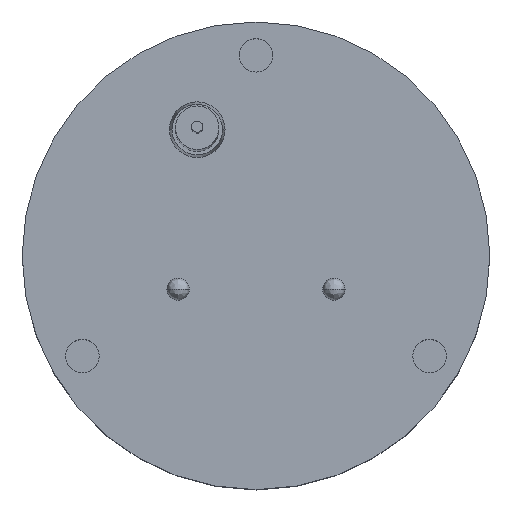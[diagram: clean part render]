
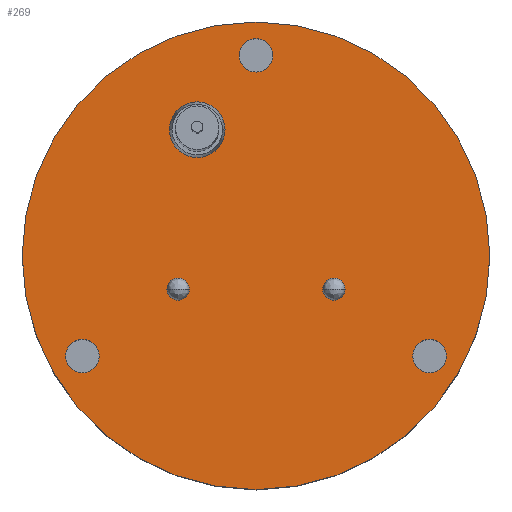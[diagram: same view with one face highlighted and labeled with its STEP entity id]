
A CAD part, top view. The second image highlights one B-rep face of the part: STEP entity #269.
In plain terms, the highlighted planar face has unit normal (0, 0, 1).
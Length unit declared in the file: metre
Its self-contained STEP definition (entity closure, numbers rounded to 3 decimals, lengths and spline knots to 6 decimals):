
#1 = CIRCLE ( 'NONE', #328, 0.0025 ) ;
#22 = CARTESIAN_POINT ( 'NONE',  ( 0.015588, -0.009, 0.0183 ) ) ;
#41 = VERTEX_POINT ( 'NONE', #1029 ) ;
#55 = CIRCLE ( 'NONE', #219, 0.001 ) ;
#64 = CIRCLE ( 'NONE', #436, 0.001 ) ;
#75 = DIRECTION ( 'NONE',  ( 0., 0., 1. ) ) ;
#86 = DIRECTION ( 'NONE',  ( 0., 0., -1. ) ) ;
#93 = EDGE_CURVE ( 'NONE', #882, #1026, #1, .T. ) ;
#94 = DIRECTION ( 'NONE',  ( 0., 0., -1. ) ) ;
#95 = CARTESIAN_POINT ( 'NONE',  ( 0.007, -0.003, 0.0183 ) ) ;
#102 = DIRECTION ( 'NONE',  ( 1., 0., 0. ) ) ;
#109 = EDGE_LOOP ( 'NONE', ( #671, #456 ) ) ;
#110 = CARTESIAN_POINT ( 'NONE',  ( 0., -0.021, 0.0183 ) ) ;
#113 = DIRECTION ( 'NONE',  ( 0., 0., -1. ) ) ;
#117 = VERTEX_POINT ( 'NONE', #589 ) ;
#118 = VERTEX_POINT ( 'NONE', #920 ) ;
#120 = CARTESIAN_POINT ( 'NONE',  ( 0.014088, -0.009, 0.0183 ) ) ;
#150 = DIRECTION ( 'NONE',  ( 1., 0., 0. ) ) ;
#161 = EDGE_CURVE ( 'NONE', #480, #182, #517, .T. ) ;
#166 = EDGE_LOOP ( 'NONE', ( #690, #312 ) ) ;
#167 = DIRECTION ( 'NONE',  ( 1., 0., 0. ) ) ;
#168 = DIRECTION ( 'NONE',  ( 0., 0., -1. ) ) ;
#173 = DIRECTION ( 'NONE',  ( 1., 0., 0. ) ) ;
#182 = VERTEX_POINT ( 'NONE', #678 ) ;
#184 = ORIENTED_EDGE ( 'NONE', *, *, #438, .T. ) ;
#189 = EDGE_CURVE ( 'NONE', #455, #1028, #352, .T. ) ;
#196 = AXIS2_PLACEMENT_3D ( 'NONE', #1002, #275, #255 ) ;
#203 = AXIS2_PLACEMENT_3D ( 'NONE', #95, #168, #757 ) ;
#204 = CARTESIAN_POINT ( 'NONE',  ( -0.015588, -0.009, 0.0183 ) ) ;
#211 = EDGE_LOOP ( 'NONE', ( #442, #184 ) ) ;
#219 = AXIS2_PLACEMENT_3D ( 'NONE', #423, #998, #274 ) ;
#221 = CIRCLE ( 'NONE', #244, 0.021 ) ;
#244 = AXIS2_PLACEMENT_3D ( 'NONE', #360, #283, #362 ) ;
#246 = CIRCLE ( 'NONE', #511, 0.0015 ) ;
#252 = EDGE_CURVE ( 'NONE', #1028, #455, #561, .T. ) ;
#254 = DIRECTION ( 'NONE',  ( 0., 0., -1. ) ) ;
#255 = DIRECTION ( 'NONE',  ( 1., 0., 0. ) ) ;
#269 = ADVANCED_FACE ( 'NONE', ( #1012, #909, #543, #284, #769, #758, #550 ), #726, .T. ) ;
#274 = DIRECTION ( 'NONE',  ( 1., 0., 0. ) ) ;
#275 = DIRECTION ( 'NONE',  ( 0., 0., -1. ) ) ;
#282 = EDGE_CURVE ( 'NONE', #288, #492, #377, .T. ) ;
#283 = DIRECTION ( 'NONE',  ( 0., 0., 1. ) ) ;
#284 = FACE_BOUND ( 'NONE', #988, .T. ) ;
#288 = VERTEX_POINT ( 'NONE', #498 ) ;
#311 = CARTESIAN_POINT ( 'NONE',  ( -0.005283, 0.011329, 0.0183 ) ) ;
#312 = ORIENTED_EDGE ( 'NONE', *, *, #477, .T. ) ;
#326 = VERTEX_POINT ( 'NONE', #398 ) ;
#328 = AXIS2_PLACEMENT_3D ( 'NONE', #419, #580, #350 ) ;
#341 = CARTESIAN_POINT ( 'NONE',  ( -0.015588, -0.009, 0.0183 ) ) ;
#350 = DIRECTION ( 'NONE',  ( -1., 0., 0. ) ) ;
#352 = CIRCLE ( 'NONE', #196, 0.0015 ) ;
#360 = CARTESIAN_POINT ( 'NONE',  ( 0., 0., 0.0183 ) ) ;
#362 = DIRECTION ( 'NONE',  ( 0., 1., 0. ) ) ;
#372 = DIRECTION ( 'NONE',  ( 0., 0., -1. ) ) ;
#375 = DIRECTION ( 'NONE',  ( 1., 0., 0. ) ) ;
#377 = CIRCLE ( 'NONE', #971, 0.021 ) ;
#385 = EDGE_CURVE ( 'NONE', #117, #646, #246, .T. ) ;
#386 = CIRCLE ( 'NONE', #907, 0.0015 ) ;
#389 = CARTESIAN_POINT ( 'NONE',  ( 0.0015, 0.018, 0.0183 ) ) ;
#393 = AXIS2_PLACEMENT_3D ( 'NONE', #311, #965, #476 ) ;
#398 = CARTESIAN_POINT ( 'NONE',  ( -0.014088, -0.009, 0.0183 ) ) ;
#399 = ORIENTED_EDGE ( 'NONE', *, *, #493, .T. ) ;
#407 = CARTESIAN_POINT ( 'NONE',  ( -0.021252, -0.021252, 0.0183 ) ) ;
#414 = CARTESIAN_POINT ( 'NONE',  ( 0., 0., 0.0183 ) ) ;
#419 = CARTESIAN_POINT ( 'NONE',  ( -0.005283, 0.011329, 0.0183 ) ) ;
#423 = CARTESIAN_POINT ( 'NONE',  ( -0.007, -0.003, 0.0183 ) ) ;
#434 = CARTESIAN_POINT ( 'NONE',  ( -0.0015, 0.018, 0.0183 ) ) ;
#436 = AXIS2_PLACEMENT_3D ( 'NONE', #823, #254, #173 ) ;
#438 = EDGE_CURVE ( 'NONE', #706, #41, #55, .T. ) ;
#442 = ORIENTED_EDGE ( 'NONE', *, *, #600, .T. ) ;
#443 = ORIENTED_EDGE ( 'NONE', *, *, #282, .T. ) ;
#448 = DIRECTION ( 'NONE',  ( 0., 0., -1. ) ) ;
#452 = AXIS2_PLACEMENT_3D ( 'NONE', #341, #832, #905 ) ;
#455 = VERTEX_POINT ( 'NONE', #434 ) ;
#456 = ORIENTED_EDGE ( 'NONE', *, *, #750, .T. ) ;
#476 = DIRECTION ( 'NONE',  ( -1., 0., 0. ) ) ;
#477 = EDGE_CURVE ( 'NONE', #182, #480, #64, .T. ) ;
#480 = VERTEX_POINT ( 'NONE', #745 ) ;
#492 = VERTEX_POINT ( 'NONE', #110 ) ;
#493 = EDGE_CURVE ( 'NONE', #326, #118, #689, .T. ) ;
#498 = CARTESIAN_POINT ( 'NONE',  ( 0., 0.021, 0.0183 ) ) ;
#511 = AXIS2_PLACEMENT_3D ( 'NONE', #22, #94, #102 ) ;
#517 = CIRCLE ( 'NONE', #203, 0.001 ) ;
#519 = EDGE_CURVE ( 'NONE', #118, #326, #386, .T. ) ;
#522 = CARTESIAN_POINT ( 'NONE',  ( -0.007, -0.003, 0.0183 ) ) ;
#529 = ORIENTED_EDGE ( 'NONE', *, *, #1036, .T. ) ;
#543 = FACE_BOUND ( 'NONE', #109, .T. ) ;
#545 = ORIENTED_EDGE ( 'NONE', *, *, #252, .T. ) ;
#550 = FACE_OUTER_BOUND ( 'NONE', #1005, .T. ) ;
#560 = EDGE_CURVE ( 'NONE', #492, #288, #221, .T. ) ;
#561 = CIRCLE ( 'NONE', #877, 0.0015 ) ;
#573 = ORIENTED_EDGE ( 'NONE', *, *, #560, .T. ) ;
#580 = DIRECTION ( 'NONE',  ( 0., 0., -1. ) ) ;
#589 = CARTESIAN_POINT ( 'NONE',  ( 0.017088, -0.009, 0.0183 ) ) ;
#600 = EDGE_CURVE ( 'NONE', #41, #706, #817, .T. ) ;
#610 = CIRCLE ( 'NONE', #393, 0.0025 ) ;
#646 = VERTEX_POINT ( 'NONE', #120 ) ;
#649 = CIRCLE ( 'NONE', #672, 0.0015 ) ;
#671 = ORIENTED_EDGE ( 'NONE', *, *, #385, .T. ) ;
#672 = AXIS2_PLACEMENT_3D ( 'NONE', #701, #372, #375 ) ;
#678 = CARTESIAN_POINT ( 'NONE',  ( 0.008, -0.003, 0.0183 ) ) ;
#689 = CIRCLE ( 'NONE', #452, 0.0015 ) ;
#690 = ORIENTED_EDGE ( 'NONE', *, *, #161, .T. ) ;
#691 = CARTESIAN_POINT ( 'NONE',  ( -0.002783, 0.011329, 0.0183 ) ) ;
#701 = CARTESIAN_POINT ( 'NONE',  ( 0.015588, -0.009, 0.0183 ) ) ;
#706 = VERTEX_POINT ( 'NONE', #951 ) ;
#720 = CARTESIAN_POINT ( 'NONE',  ( -0.007783, 0.011329, 0.0183 ) ) ;
#726 = PLANE ( 'NONE',  #918 ) ;
#732 = ORIENTED_EDGE ( 'NONE', *, *, #519, .T. ) ;
#735 = DIRECTION ( 'NONE',  ( 0., 0., 1. ) ) ;
#745 = CARTESIAN_POINT ( 'NONE',  ( 0.006, -0.003, 0.0183 ) ) ;
#750 = EDGE_CURVE ( 'NONE', #646, #117, #649, .T. ) ;
#757 = DIRECTION ( 'NONE',  ( 1., 0., 0. ) ) ;
#758 = FACE_BOUND ( 'NONE', #166, .T. ) ;
#767 = DIRECTION ( 'NONE',  ( 1., 0., 0. ) ) ;
#769 = FACE_BOUND ( 'NONE', #211, .T. ) ;
#807 = ORIENTED_EDGE ( 'NONE', *, *, #189, .T. ) ;
#817 = CIRCLE ( 'NONE', #929, 0.001 ) ;
#823 = CARTESIAN_POINT ( 'NONE',  ( 0.007, -0.003, 0.0183 ) ) ;
#832 = DIRECTION ( 'NONE',  ( 0., 0., -1. ) ) ;
#865 = ORIENTED_EDGE ( 'NONE', *, *, #93, .T. ) ;
#877 = AXIS2_PLACEMENT_3D ( 'NONE', #978, #86, #167 ) ;
#882 = VERTEX_POINT ( 'NONE', #691 ) ;
#905 = DIRECTION ( 'NONE',  ( 1., 0., 0. ) ) ;
#907 = AXIS2_PLACEMENT_3D ( 'NONE', #204, #448, #767 ) ;
#909 = FACE_BOUND ( 'NONE', #1004, .T. ) ;
#918 = AXIS2_PLACEMENT_3D ( 'NONE', #407, #75, #150 ) ;
#920 = CARTESIAN_POINT ( 'NONE',  ( -0.017088, -0.009, 0.0183 ) ) ;
#929 = AXIS2_PLACEMENT_3D ( 'NONE', #522, #113, #1019 ) ;
#951 = CARTESIAN_POINT ( 'NONE',  ( -0.008, -0.003, 0.0183 ) ) ;
#964 = EDGE_LOOP ( 'NONE', ( #529, #865 ) ) ;
#965 = DIRECTION ( 'NONE',  ( 0., 0., -1. ) ) ;
#971 = AXIS2_PLACEMENT_3D ( 'NONE', #414, #735, #985 ) ;
#978 = CARTESIAN_POINT ( 'NONE',  ( 0., 0.018, 0.0183 ) ) ;
#985 = DIRECTION ( 'NONE',  ( 0., 1., 0. ) ) ;
#988 = EDGE_LOOP ( 'NONE', ( #399, #732 ) ) ;
#998 = DIRECTION ( 'NONE',  ( 0., 0., -1. ) ) ;
#1002 = CARTESIAN_POINT ( 'NONE',  ( 0., 0.018, 0.0183 ) ) ;
#1004 = EDGE_LOOP ( 'NONE', ( #545, #807 ) ) ;
#1005 = EDGE_LOOP ( 'NONE', ( #443, #573 ) ) ;
#1012 = FACE_BOUND ( 'NONE', #964, .T. ) ;
#1019 = DIRECTION ( 'NONE',  ( 1., 0., 0. ) ) ;
#1026 = VERTEX_POINT ( 'NONE', #720 ) ;
#1028 = VERTEX_POINT ( 'NONE', #389 ) ;
#1029 = CARTESIAN_POINT ( 'NONE',  ( -0.006, -0.003, 0.0183 ) ) ;
#1036 = EDGE_CURVE ( 'NONE', #1026, #882, #610, .T. ) ;
